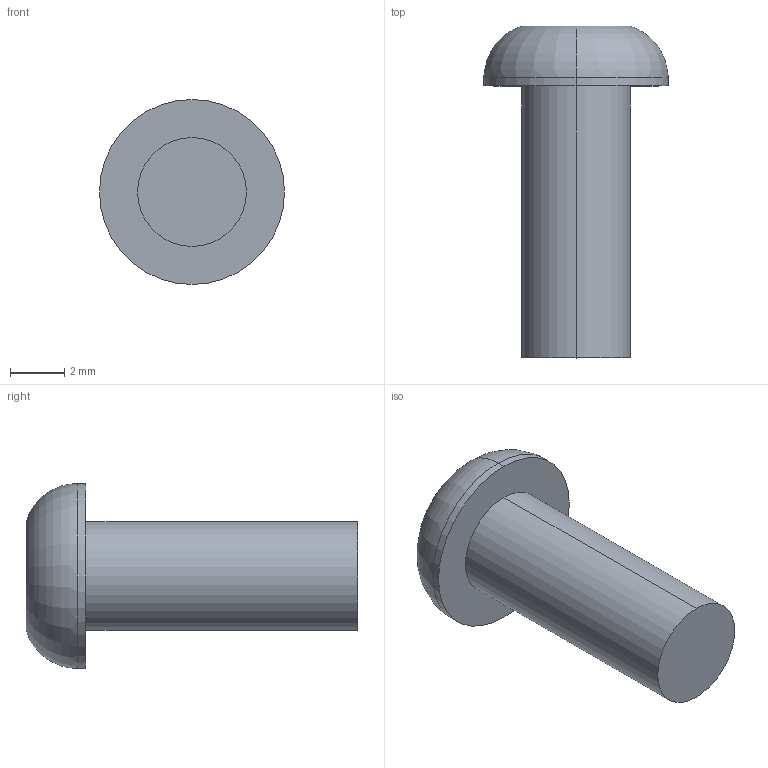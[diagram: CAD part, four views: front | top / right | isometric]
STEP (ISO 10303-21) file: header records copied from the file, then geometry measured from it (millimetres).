
FILE_DESCRIPTION (( 'STEP AP203' ), '1' );
FILE_NAME ('ZF_STEP_VF_VAM4X10BX-X_A11.step', '2011-01-04T16:17:18', ( 'Pizzato Elettrica' ), ( '' ), 'SwSTEP 2.0', 'SolidWorks 2010', '' );
FILE_SCHEMA (( 'CONFIG_CONTROL_DESIGN' ));
Length unit declared in the file: millimetre
Products named in the file (1): ZF_STEP_VF_VAM4X10BX-X_A11
Bounding box: 6.8 x 12.2 x 6.8 mm (x, y, z)
Volume: 182.7 mm3; surface area: 252.8 mm2
Topology: 1 solids, 1 shells, 38 faces, 97 edges, 64 vertices
Faces by surface type: cylinder 19, plane 17, torus 2
Entity records: 1244 total; most frequent: DIRECTION 217, CARTESIAN_POINT 200, ORIENTED_EDGE 194, EDGE_CURVE 97, AXIS2_PLACEMENT_3D 81, VERTEX_POINT 64, VECTOR 55, LINE 55
